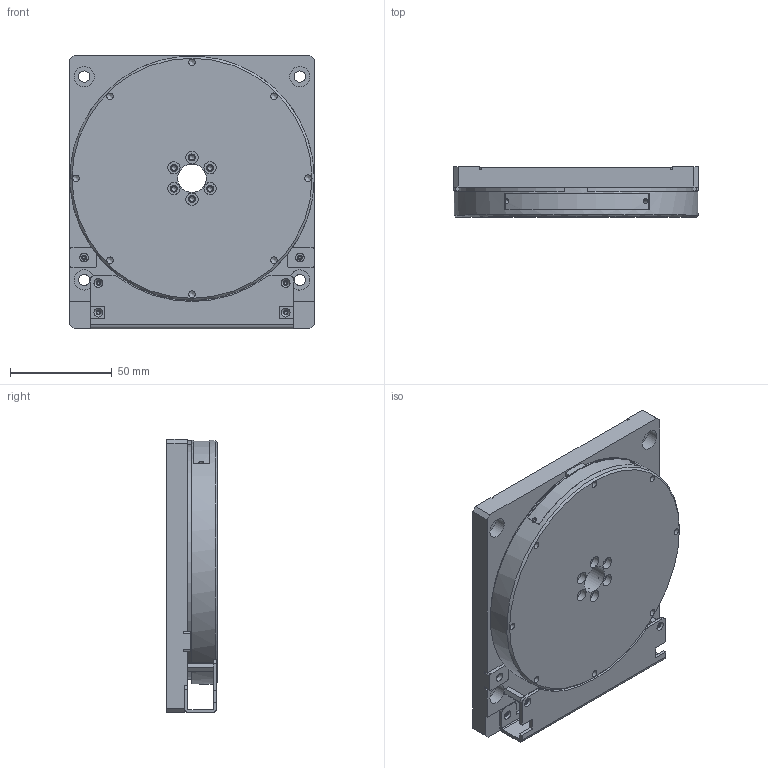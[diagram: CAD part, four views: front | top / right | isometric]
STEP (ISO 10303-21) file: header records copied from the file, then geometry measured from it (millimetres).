
FILE_DESCRIPTION( ( 'Unknown' ), '1' );
FILE_NAME( 'C:/Users/michael/Desktop/RMC120-1模型解密.stp', 'Unknown', ( 'Unknown' ), ( 'Unknown' ), 'PSStep 17.0.49', 'Unknown', ' ' );
FILE_SCHEMA( ( 'AUTOMOTIVE_DESIGN { 1 0 10303 214 1 1 1 1 }' ) );
Length unit declared in the file: millimetre
Products named in the file (3): 底座
Bounding box: 120 x 24.7 x 134.5 mm (x, y, z)
Volume: 258746.9 mm3; surface area: 90277.6 mm2
Topology: 3 solids, 5 shells, 322 faces, 847 edges, 565 vertices
Faces by surface type: plane 147, cylinder 128, cone 47
Full cylindrical faces by diameter (mm): 1.221 x3, 1.567 x24, 2.4 x2, 2.459 x10, 2.6 x4, 3.242 x8, 3.4 x6, 4.3 x2, 5.5 x4, 6 x6, 10 x4, 14 x3, 25 x2, 32 x2, 35 x2, 40 x1, 41 x2, 51 x2, 108 x1, 115 x1, 116 x1, 120 x1
Entity records: 11466 total; most frequent: CARTESIAN_POINT 1590, DIRECTION 1540, ORIENTED_EDGE 1236, EDGE_CURVE 618, AXIS2_PLACEMENT_3D 608, EDGE_LOOP 546, VERTEX_POINT 508, FACE_OUTER_BOUND 413
